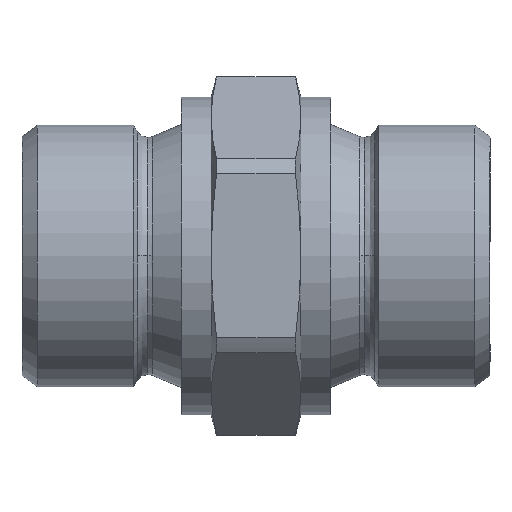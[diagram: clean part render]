
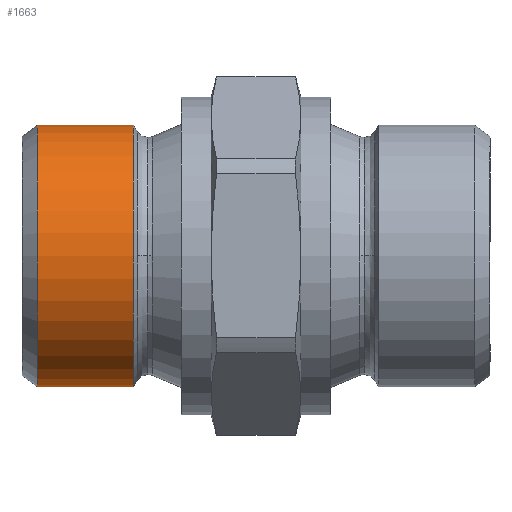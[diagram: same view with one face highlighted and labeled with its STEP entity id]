
A CAD part, top view. The second image highlights one B-rep face of the part: STEP entity #1663.
In plain terms, the highlighted cylindrical face has radius 13.15 mm (diameter 26.3 mm), a partial arc.
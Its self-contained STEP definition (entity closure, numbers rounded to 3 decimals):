
#997=CARTESIAN_POINT('',(0.,-13.15,21.974));
#998=VERTEX_POINT('',#997);
#999=CARTESIAN_POINT('',(0.,-13.15,12.306));
#1000=VERTEX_POINT('',#999);
#1001=CARTESIAN_POINT('',(0.,-13.15,21.974));
#1002=DIRECTION('',(0.0,0.0,-1.0));
#1003=VECTOR('',#1002,9.668);
#1004=LINE('',#1001,#1003);
#1005=EDGE_CURVE('',#998,#1000,#1004,.T.);
#1007=CARTESIAN_POINT('',(0.,13.15,21.974));
#1008=VERTEX_POINT('',#1007);
#1016=CARTESIAN_POINT('',(0.,13.15,12.306));
#1017=VERTEX_POINT('',#1016);
#1018=CARTESIAN_POINT('',(0.,13.15,12.306));
#1019=DIRECTION('',(0.0,0.0,1.0));
#1020=VECTOR('',#1019,9.668);
#1021=LINE('',#1018,#1020);
#1022=EDGE_CURVE('',#1017,#1008,#1021,.T.);
#1461=CARTESIAN_POINT('',(0.,0.,12.306));
#1462=DIRECTION('',(0.0,0.0,-1.0));
#1463=DIRECTION('',(0.0,-1.0,0.0));
#1464=AXIS2_PLACEMENT_3D('',#1461,#1462,#1463);
#1465=CIRCLE('',#1464,13.15);
#1466=EDGE_CURVE('',#1017,#1000,#1465,.T.);
#1640=CARTESIAN_POINT('',(0.,0.,21.974));
#1641=DIRECTION('',(0.0,0.0,-1.0));
#1642=DIRECTION('',(0.0,-1.0,0.0));
#1643=AXIS2_PLACEMENT_3D('',#1640,#1641,#1642);
#1644=CIRCLE('',#1643,13.15);
#1645=EDGE_CURVE('',#1008,#998,#1644,.T.);
#1652=CARTESIAN_POINT('',(0.,0.,17.14));
#1653=DIRECTION('',(0.,0.,-1.0));
#1654=DIRECTION('',(0.0,-1.0,0.0));
#1655=AXIS2_PLACEMENT_3D('',#1652,#1653,#1654);
#1656=CYLINDRICAL_SURFACE('',#1655,13.15);
#1657=ORIENTED_EDGE('',*,*,#1005,.T.);
#1658=ORIENTED_EDGE('',*,*,#1466,.F.);
#1659=ORIENTED_EDGE('',*,*,#1022,.T.);
#1660=ORIENTED_EDGE('',*,*,#1645,.T.);
#1661=EDGE_LOOP('',(#1657,#1658,#1659,#1660));
#1662=FACE_OUTER_BOUND('',#1661,.T.);
#1663=ADVANCED_FACE('',(#1662),#1656,.T.);
